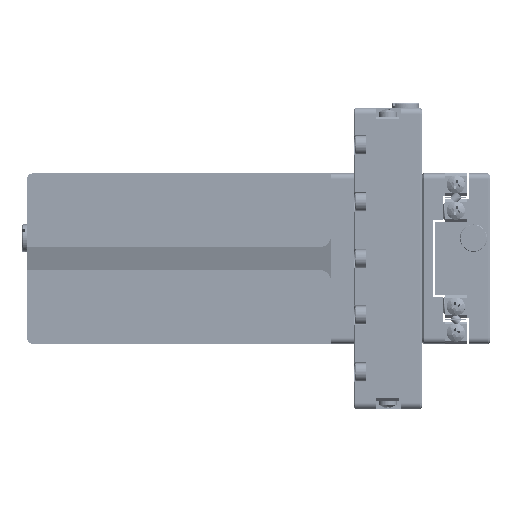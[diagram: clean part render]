
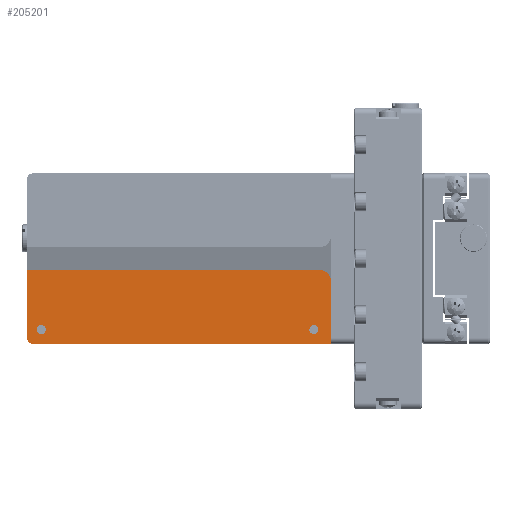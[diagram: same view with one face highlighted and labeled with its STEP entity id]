
A CAD part, left-side view. The second image highlights one B-rep face of the part: STEP entity #205201.
In plain terms, the highlighted planar face has unit normal (-1, 0, 0).
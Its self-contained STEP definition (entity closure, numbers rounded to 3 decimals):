
#33 = DIRECTION ( 'NONE',  ( 1., 0., 0. ) ) ;
#531 = ORIENTED_EDGE ( 'NONE', *, *, #162484, .T. ) ;
#1887 = CARTESIAN_POINT ( 'NONE',  ( 4.779, 10.309, -11.775 ) ) ;
#5578 = EDGE_LOOP ( 'NONE', ( #5980, #6003 ) ) ;
#5980 = ORIENTED_EDGE ( 'NONE', *, *, #40919, .T. ) ;
#6003 = ORIENTED_EDGE ( 'NONE', *, *, #8845, .T. ) ;
#6809 = VECTOR ( 'NONE', #80098, 1000. ) ;
#8845 = EDGE_CURVE ( 'NONE', #63100, #61249, #21121, .T. ) ;
#13712 = CARTESIAN_POINT ( 'NONE',  ( 4.779, 58.309, -11.775 ) ) ;
#21121 = CIRCLE ( 'NONE', #78248, 0.8 ) ;
#21601 = CIRCLE ( 'NONE', #116979, 2. ) ;
#24181 = EDGE_CURVE ( 'NONE', #115598, #26230, #128408, .T. ) ;
#26230 = VERTEX_POINT ( 'NONE', #140584 ) ;
#27399 = DIRECTION ( 'NONE',  ( 0., 0., -1. ) ) ;
#27820 = LINE ( 'NONE', #66463, #201046 ) ;
#33358 = LINE ( 'NONE', #84326, #63198 ) ;
#33775 = EDGE_CURVE ( 'NONE', #104596, #26230, #27820, .T. ) ;
#34616 = VERTEX_POINT ( 'NONE', #107696 ) ;
#35632 = VERTEX_POINT ( 'NONE', #13712 ) ;
#38260 = DIRECTION ( 'NONE',  ( -1., 0., 0. ) ) ;
#40919 = EDGE_CURVE ( 'NONE', #61249, #63100, #41316, .T. ) ;
#41161 = DIRECTION ( 'NONE',  ( 1., 0., 0. ) ) ;
#41316 = CIRCLE ( 'NONE', #107710, 0.8 ) ;
#43002 = PLANE ( 'NONE',  #144117 ) ;
#44509 = AXIS2_PLACEMENT_3D ( 'NONE', #152600, #41161, #151904 ) ;
#45149 = CARTESIAN_POINT ( 'NONE',  ( 4.779, 10.309, -12.575 ) ) ;
#48266 = CARTESIAN_POINT ( 'NONE',  ( 4.779, 7.309, 14.925 ) ) ;
#49751 = EDGE_CURVE ( 'NONE', #34616, #104596, #111863, .T. ) ;
#53538 = CARTESIAN_POINT ( 'NONE',  ( 4.779, 9.309, -4.075 ) ) ;
#55728 = EDGE_LOOP ( 'NONE', ( #531, #154410 ) ) ;
#61249 = VERTEX_POINT ( 'NONE', #138125 ) ;
#63100 = VERTEX_POINT ( 'NONE', #1887 ) ;
#63198 = VECTOR ( 'NONE', #195575, 1000. ) ;
#66463 = CARTESIAN_POINT ( 'NONE',  ( 4.779, 7.309, -15.075 ) ) ;
#67531 = DIRECTION ( 'NONE',  ( 0., 1., 0. ) ) ;
#71231 = ORIENTED_EDGE ( 'NONE', *, *, #24181, .F. ) ;
#74656 = AXIS2_PLACEMENT_3D ( 'NONE', #115617, #100995, #101705 ) ;
#74990 = EDGE_CURVE ( 'NONE', #160480, #34616, #33358, .T. ) ;
#77730 = CARTESIAN_POINT ( 'NONE',  ( 4.779, 10.309, -12.575 ) ) ;
#78248 = AXIS2_PLACEMENT_3D ( 'NONE', #77730, #171835, #186377 ) ;
#80098 = DIRECTION ( 'NONE',  ( 0., 0., -1. ) ) ;
#80397 = EDGE_CURVE ( 'NONE', #118460, #160480, #82756, .T. ) ;
#81353 = CIRCLE ( 'NONE', #74656, 0.8 ) ;
#81676 = DIRECTION ( 'NONE',  ( 0., -1., 0. ) ) ;
#82474 = EDGE_CURVE ( 'NONE', #35632, #200107, #81353, .T. ) ;
#82756 = LINE ( 'NONE', #162279, #171935 ) ;
#84326 = CARTESIAN_POINT ( 'NONE',  ( 4.779, 60.809, 14.925 ) ) ;
#84827 = EDGE_LOOP ( 'NONE', ( #167343, #119510, #204516, #71231, #131373, #181098 ) ) ;
#89144 = CARTESIAN_POINT ( 'NONE',  ( 4.779, 59.809, -14.075 ) ) ;
#89711 = CARTESIAN_POINT ( 'NONE',  ( 4.779, 59.809, -15.075 ) ) ;
#100995 = DIRECTION ( 'NONE',  ( 1., 0., 0. ) ) ;
#101705 = DIRECTION ( 'NONE',  ( 0., 0., -1. ) ) ;
#103814 = AXIS2_PLACEMENT_3D ( 'NONE', #89144, #105145, #27399 ) ;
#104596 = VERTEX_POINT ( 'NONE', #89711 ) ;
#105145 = DIRECTION ( 'NONE',  ( -1., 0., 0. ) ) ;
#106540 = CARTESIAN_POINT ( 'NONE',  ( 4.779, 9.309, -2.075 ) ) ;
#107696 = CARTESIAN_POINT ( 'NONE',  ( 4.779, 60.809, -14.075 ) ) ;
#107710 = AXIS2_PLACEMENT_3D ( 'NONE', #45149, #33, #173181 ) ;
#107859 = FACE_OUTER_BOUND ( 'NONE', #84827, .T. ) ;
#109215 = CARTESIAN_POINT ( 'NONE',  ( 4.779, 60.809, -2.075 ) ) ;
#111863 = CIRCLE ( 'NONE', #103814, 1. ) ;
#112800 = FACE_BOUND ( 'NONE', #5578, .T. ) ;
#115598 = VERTEX_POINT ( 'NONE', #176503 ) ;
#115617 = CARTESIAN_POINT ( 'NONE',  ( 4.779, 58.309, -12.575 ) ) ;
#116979 = AXIS2_PLACEMENT_3D ( 'NONE', #53538, #38260, #166272 ) ;
#118460 = VERTEX_POINT ( 'NONE', #106540 ) ;
#118867 = CIRCLE ( 'NONE', #44509, 0.8 ) ;
#119510 = ORIENTED_EDGE ( 'NONE', *, *, #49751, .T. ) ;
#128408 = LINE ( 'NONE', #48266, #6809 ) ;
#131373 = ORIENTED_EDGE ( 'NONE', *, *, #185823, .T. ) ;
#138125 = CARTESIAN_POINT ( 'NONE',  ( 4.779, 10.309, -13.375 ) ) ;
#140584 = CARTESIAN_POINT ( 'NONE',  ( 4.779, 7.309, -15.075 ) ) ;
#144117 = AXIS2_PLACEMENT_3D ( 'NONE', #153031, #184887, #153701 ) ;
#151904 = DIRECTION ( 'NONE',  ( 0., 0., -1. ) ) ;
#152600 = CARTESIAN_POINT ( 'NONE',  ( 4.779, 58.309, -12.575 ) ) ;
#153031 = CARTESIAN_POINT ( 'NONE',  ( 4.779, 7.309, 14.925 ) ) ;
#153701 = DIRECTION ( 'NONE',  ( 0., 0., -1. ) ) ;
#154410 = ORIENTED_EDGE ( 'NONE', *, *, #82474, .T. ) ;
#160480 = VERTEX_POINT ( 'NONE', #109215 ) ;
#162279 = CARTESIAN_POINT ( 'NONE',  ( 4.779, 7.309, -2.075 ) ) ;
#162484 = EDGE_CURVE ( 'NONE', #200107, #35632, #118867, .T. ) ;
#165635 = CARTESIAN_POINT ( 'NONE',  ( 4.779, 58.309, -13.375 ) ) ;
#166272 = DIRECTION ( 'NONE',  ( 0., 0., -1. ) ) ;
#167343 = ORIENTED_EDGE ( 'NONE', *, *, #74990, .T. ) ;
#171835 = DIRECTION ( 'NONE',  ( 1., 0., 0. ) ) ;
#171935 = VECTOR ( 'NONE', #67531, 1000. ) ;
#173181 = DIRECTION ( 'NONE',  ( 0., 0., -1. ) ) ;
#176503 = CARTESIAN_POINT ( 'NONE',  ( 4.779, 7.309, -4.075 ) ) ;
#181098 = ORIENTED_EDGE ( 'NONE', *, *, #80397, .T. ) ;
#184887 = DIRECTION ( 'NONE',  ( 1., 0., 0. ) ) ;
#185823 = EDGE_CURVE ( 'NONE', #115598, #118460, #21601, .T. ) ;
#186377 = DIRECTION ( 'NONE',  ( 0., 0., -1. ) ) ;
#189487 = FACE_BOUND ( 'NONE', #55728, .T. ) ;
#195575 = DIRECTION ( 'NONE',  ( 0., 0., -1. ) ) ;
#200107 = VERTEX_POINT ( 'NONE', #165635 ) ;
#201046 = VECTOR ( 'NONE', #81676, 1000. ) ;
#204516 = ORIENTED_EDGE ( 'NONE', *, *, #33775, .T. ) ;
#205201 = ADVANCED_FACE ( 'NONE', ( #189487, #112800, #107859 ), #43002, .F. ) ;
